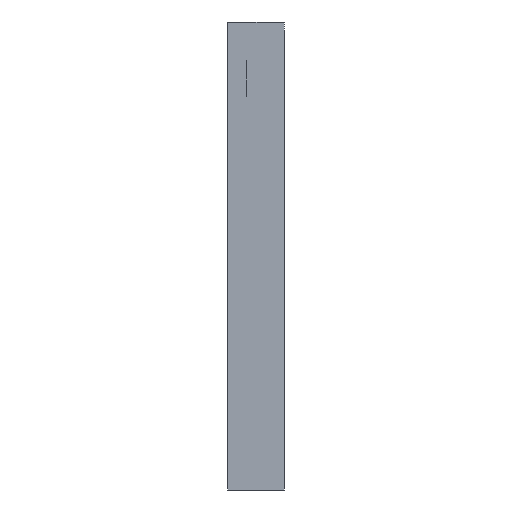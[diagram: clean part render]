
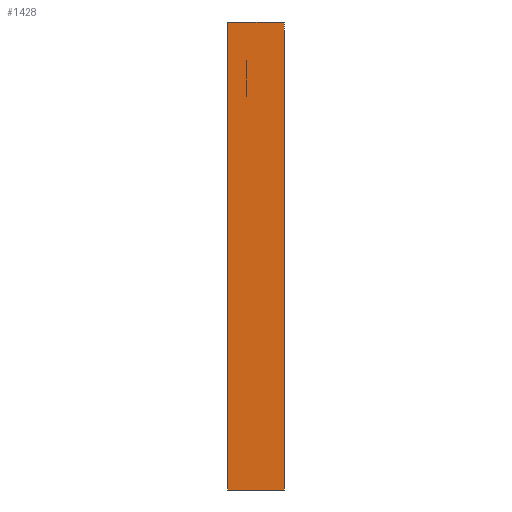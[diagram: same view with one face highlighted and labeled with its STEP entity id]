
A CAD part, left-side view. The second image highlights one B-rep face of the part: STEP entity #1428.
In plain terms, the highlighted free-form (B-spline) face has degree [1, 1] with [2, 2] control points.
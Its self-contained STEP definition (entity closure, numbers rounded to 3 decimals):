
#314=CARTESIAN_POINT('',(-305.,0.,25.));
#315=VERTEX_POINT('',#314);
#323=CARTESIAN_POINT('',(-305.,0.,-25.));
#324=VERTEX_POINT('',#323);
#325=CARTESIAN_POINT('',(-305.,0.,-25.));
#326=CARTESIAN_POINT('',(-305.,0.,25.));
#327=B_SPLINE_CURVE_WITH_KNOTS('',1,(#325,#326),.UNSPECIFIED.,.F.,.F.,(2,2),(0.,0.05),.UNSPECIFIED.);
#328=EDGE_CURVE('',#324,#315,#327,.T.);
#1304=CARTESIAN_POINT('',(-305.,6.,25.));
#1305=VERTEX_POINT('',#1304);
#1320=CARTESIAN_POINT('',(-305.,6.,-25.));
#1321=VERTEX_POINT('',#1320);
#1327=CARTESIAN_POINT('',(-305.,6.,-25.));
#1328=CARTESIAN_POINT('',(-305.,6.,25.));
#1329=B_SPLINE_CURVE_WITH_KNOTS('',1,(#1327,#1328),.UNSPECIFIED.,.F.,.F.,(2,2),(0.,0.05),.UNSPECIFIED.);
#1330=EDGE_CURVE('',#1321,#1305,#1329,.T.);
#1377=CARTESIAN_POINT('',(-305.,6.,25.));
#1378=CARTESIAN_POINT('',(-305.,0.,25.));
#1379=B_SPLINE_CURVE_WITH_KNOTS('',1,(#1377,#1378),.UNSPECIFIED.,.F.,.F.,(2,2),(0.,0.006),.UNSPECIFIED.);
#1380=EDGE_CURVE('',#1305,#315,#1379,.T.);
#1407=CARTESIAN_POINT('',(-305.,6.,-25.));
#1408=CARTESIAN_POINT('',(-305.,0.,-25.));
#1409=B_SPLINE_CURVE_WITH_KNOTS('',1,(#1407,#1408),.UNSPECIFIED.,.F.,.F.,(2,2),(0.,0.006),.UNSPECIFIED.);
#1410=EDGE_CURVE('',#1321,#324,#1409,.T.);
#1417=CARTESIAN_POINT('',(-305.,0.,25.));
#1418=CARTESIAN_POINT('',(-305.,6.,25.));
#1419=CARTESIAN_POINT('',(-305.,0.,-25.));
#1420=CARTESIAN_POINT('',(-305.,6.,-25.));
#1421=B_SPLINE_SURFACE_WITH_KNOTS('',1,1,((#1417,#1418),(#1419,#1420)),.UNSPECIFIED.,.F.,.F.,.U.,(2,2),(2,2),(-0.05,0.),(-0.006,0.),.UNSPECIFIED.);
#1422=ORIENTED_EDGE('',*,*,#328,.T.);
#1423=ORIENTED_EDGE('',*,*,#1380,.F.);
#1424=ORIENTED_EDGE('',*,*,#1330,.F.);
#1425=ORIENTED_EDGE('',*,*,#1410,.T.);
#1426=EDGE_LOOP('',(#1422,#1423,#1424,#1425));
#1427=FACE_BOUND('',#1426,.T.);
#1428=ADVANCED_FACE('',(#1427),#1421,.F.);
